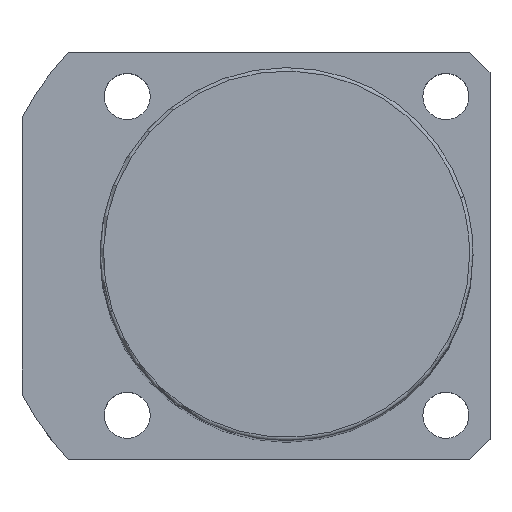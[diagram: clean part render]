
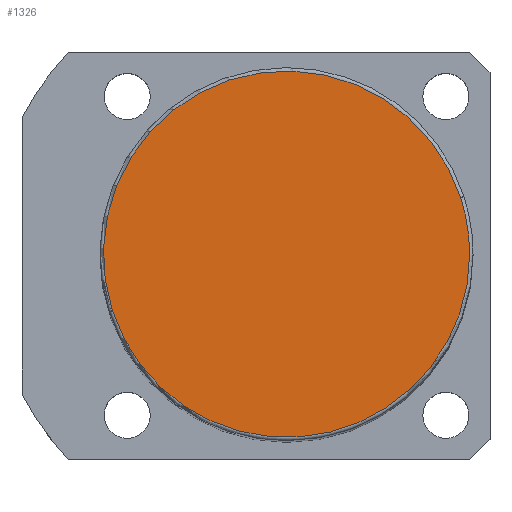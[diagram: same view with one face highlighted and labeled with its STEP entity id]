
A CAD part, top view. The second image highlights one B-rep face of the part: STEP entity #1326.
In plain terms, the highlighted planar face has unit normal (0, 0, 1).
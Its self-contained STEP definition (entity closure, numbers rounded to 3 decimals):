
#1259=CARTESIAN_POINT('',(25.679,8.343,156.0));
#1260=VERTEX_POINT('',#1259);
#1278=CARTESIAN_POINT('',(-25.679,-8.343,156.0));
#1279=VERTEX_POINT('',#1278);
#1287=CARTESIAN_POINT('',(0.0,0.0,156.0));
#1288=DIRECTION('',(0.0,0.0,1.0));
#1289=DIRECTION('',(1.0,0.0,0.0));
#1290=AXIS2_PLACEMENT_3D('',#1287,#1288,#1289);
#1291=CIRCLE('',#1290,27.0);
#1292=EDGE_CURVE('no 1824',#1260,#1279,#1291,.T.);
#1302=CARTESIAN_POINT('',(27.0,0.0,156.0));
#1303=VERTEX_POINT('',#1302);
#1304=CARTESIAN_POINT('',(0.0,0.0,156.0));
#1305=DIRECTION('',(0.0,0.0,1.0));
#1306=DIRECTION('',(1.0,0.0,0.0));
#1307=AXIS2_PLACEMENT_3D('',#1304,#1305,#1306);
#1308=CIRCLE('',#1307,27.0);
#1309=EDGE_CURVE('no 1833',#1303,#1260,#1308,.T.);
#1310=ORIENTED_EDGE('',*,*,#1309,.T.);
#1311=ORIENTED_EDGE('',*,*,#1292,.T.);
#1312=CARTESIAN_POINT('',(0.0,0.0,156.0));
#1313=DIRECTION('',(0.0,0.0,1.0));
#1314=DIRECTION('',(1.0,0.0,0.0));
#1315=AXIS2_PLACEMENT_3D('',#1312,#1313,#1314);
#1316=CIRCLE('',#1315,27.0);
#1317=EDGE_CURVE('no 1839',#1279,#1303,#1316,.T.);
#1318=ORIENTED_EDGE('',*,*,#1317,.T.);
#1319=EDGE_LOOP('',(#1310,#1311,#1318));
#1320=FACE_OUTER_BOUND('',#1319,.T.);
#1321=CARTESIAN_POINT('',(0.0,0.0,156.0));
#1322=DIRECTION('',(0.0,0.0,1.0));
#1323=DIRECTION('',(1.0,0.0,0.0));
#1324=AXIS2_PLACEMENT_3D('',#1321,#1322,#1323);
#1325=PLANE('',#1324);
#1326=ADVANCED_FACE('no 1826',(#1320),#1325,.T.);
